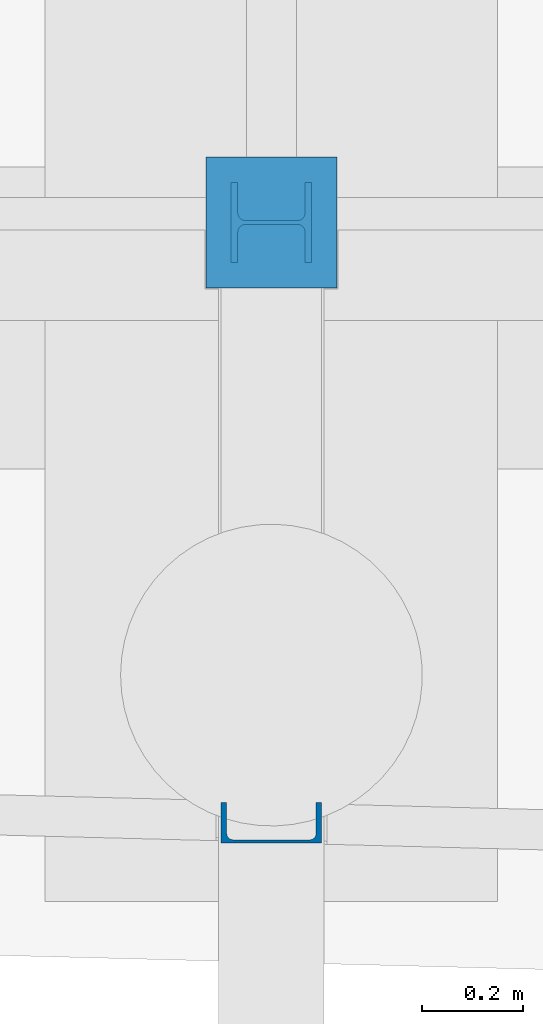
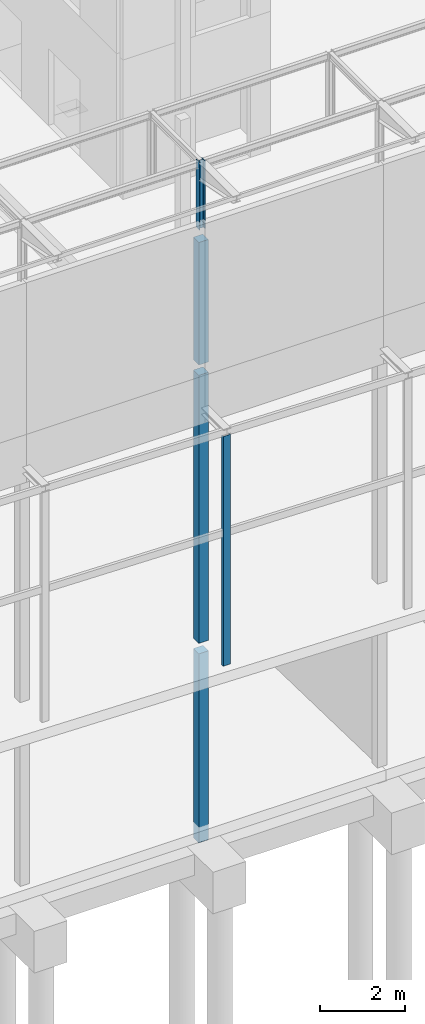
# One storey, part 11 of 82: 5 columns.
"""IFC2X3 building model written with IfcOpenShell, lengths in millimetres."""

from ifc_helpers import new_model, si_unit, frame, frame_2d, origin_with_axes, place, context, subcontext, project, spatial, rectangle, i_section, u_section, extrude, material, type_object, element, save


model = new_model("IFC2X3")

# Units and contexts
model_context = context("Model", 3, precision=1e-05, world=origin_with_axes())
body_context = subcontext(model_context, "Body", "Model", "MODEL_VIEW")
ifc_project = project(units=[si_unit("LENGTHUNIT", "METRE", prefix="MILLI"), si_unit("AREAUNIT", "SQUARE_METRE"), si_unit("VOLUMEUNIT", "CUBIC_METRE"), si_unit("MASSUNIT", "GRAM", prefix="KILO"), si_unit("TIMEUNIT", "SECOND"), si_unit("PLANEANGLEUNIT", "RADIAN"), si_unit("SOLIDANGLEUNIT", "STERADIAN"), si_unit("THERMODYNAMICTEMPERATUREUNIT", "DEGREE_CELSIUS"), si_unit("LUMINOUSINTENSITYUNIT", "LUMEN")], contexts=[model_context])

# Site, building, storey
site_placement = place(None, origin_with_axes())
site = spatial("IfcSite", under=ifc_project, at=site_placement, Name="Undefined", CompositionType="ELEMENT")
building_placement = place(site_placement, origin_with_axes())
building = spatial("IfcBuilding", under=site, at=building_placement, Name="Undefined", CompositionType="ELEMENT")
storey_placement = place(building_placement, origin_with_axes())
storey = spatial("IfcBuildingStorey", under=building, at=storey_placement, Name="Undefined", CompositionType="ELEMENT", Elevation=0.0)

# Columns
ifc_material_1 = material(Name="CONCRETE/C25/30")
column_type_1 = type_object("IfcColumnType", Name="260*260", PredefinedType="NOTDEFINED")
column_1_placement = place(storey_placement, frame((24374.9999999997, -9.79841274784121e-09, 13330.0), z_axis=(0.0, 0.0, 1.0), x_axis=(1.0, 0.0, 0.0)))
element("IfcColumn", 1, at=column_1_placement, inside=storey, type_object=column_type_1, material=ifc_material_1, Name="POTEAU", ObjectType="260*260", context=body_context, shape_type="SweptSolid", body=[
    extrude(rectangle(XDim=260.0, YDim=260.0, at=frame_2d((5.17284206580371e-08, 4.49290382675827e-10), x_axis=(1.0, 0.0))), frame((0.0, 0.0, 3529.99999999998), z_axis=(0.0, -6.50000002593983e-08, -0.999999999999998), x_axis=(-1.0, 0.0, 0.0)), (0.0, 0.0, 1.0), 3530.0),
])
column_2_placement = place(storey_placement, frame((24374.9999999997, -9.79841274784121e-09, 5300.0), z_axis=(0.0, 0.0, 1.0), x_axis=(1.0, 0.0, 0.0)))
element("IfcColumn", 2, at=column_2_placement, inside=storey, type_object=column_type_1, material=ifc_material_1, Name="POTEAU", ObjectType="260*260", context=body_context, shape_type="SweptSolid", body=[
    extrude(rectangle(XDim=260.0, YDim=260.0, at=frame_2d((5.17284206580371e-08, 4.49290382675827e-10), x_axis=(1.0, 0.0))), frame((0.0, 0.0, 7730.0), z_axis=(0.0, -6.50000002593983e-08, -0.999999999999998), x_axis=(-1.0, 0.0, 0.0)), (0.0, 0.0, 1.0), 7730.0),
])
column_3_placement = place(storey_placement, frame((24374.9999999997, -9.79841274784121e-09, -450.0), z_axis=(0.0, 0.0, 1.0), x_axis=(1.0, 0.0, 0.0)))
element("IfcColumn", 3, at=column_3_placement, inside=storey, type_object=column_type_1, material=ifc_material_1, Name="POTEAU", ObjectType="260*260", context=body_context, shape_type="SweptSolid", body=[
    extrude(rectangle(XDim=260.0, YDim=260.0, at=frame_2d((5.17284206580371e-08, 4.49290382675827e-10), x_axis=(1.0, 0.0))), frame((0.0, 0.0, 5450.00000000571), z_axis=(0.0, -6.50000002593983e-08, -0.999999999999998), x_axis=(-1.0, 0.0, 0.0)), (0.0, 0.0, 1.0), 5450.0),
])
ifc_material_2 = material(Name="STEEL/S275JR")
column_type_2 = type_object("IfcColumnType", Name="HEB160", PredefinedType="NOTDEFINED")
column_4_placement = place(storey_placement, frame((24375.000000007, -4.81468021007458e-08, 17160.0), z_axis=(0.0, 0.0, 1.0), x_axis=(1.0, 0.0, 0.0)))
element("IfcColumn", 4, at=column_4_placement, inside=storey, type_object=column_type_2, material=ifc_material_2, Name="POTEAU", ObjectType="HEB160", context=body_context, shape_type="SweptSolid", body=[
    extrude(i_section(OverallWidth=160.0, OverallDepth=160.0, WebThickness=8.0, FlangeThickness=13.0, FilletRadius=15.0, at=frame_2d((5.17284206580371e-08, 4.49290382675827e-10), x_axis=(1.0, 0.0))), frame((0.0, 0.0, 1965.0), z_axis=(0.0, -6.50000002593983e-08, -0.999999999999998), x_axis=(-2.77555756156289e-17, -1.0, 0.0)), (0.0, 0.0, 1.0), 1965.0),
])
column_type_3 = type_object("IfcColumnType", Name="UPE200", PredefinedType="NOTDEFINED")
column_5_placement = place(storey_placement, frame((24374.999999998, -1193.59506344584, 5300.00000000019), z_axis=(0.0, 0.0, 1.0), x_axis=(1.0, 0.0, 0.0)))
element("IfcColumn", 5, at=column_5_placement, inside=storey, type_object=column_type_3, material=ifc_material_2, Name="POUTRE", ObjectType="UPE200", context=body_context, shape_type="SweptSolid", body=[
    extrude(u_section(Depth=200.0, FlangeWidth=80.0, WebThickness=6.0, FlangeThickness=11.0, FilletRadius=13.0, at=frame_2d((5.17284206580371e-08, 4.49290382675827e-10), x_axis=(1.0, 0.0))), frame((0.0, 0.0, 6625.00000000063), z_axis=(0.0, -6.50000002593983e-08, -0.999999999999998), x_axis=(0.0, 1.0, 0.0)), (0.0, 0.0, 1.0), 6625.0),
])

save(model, "model.ifc")
